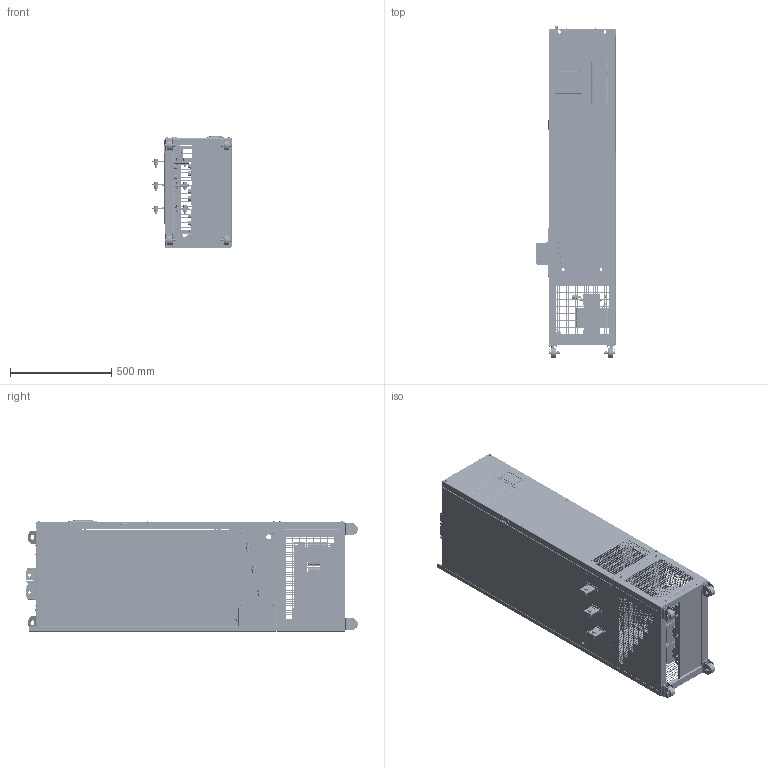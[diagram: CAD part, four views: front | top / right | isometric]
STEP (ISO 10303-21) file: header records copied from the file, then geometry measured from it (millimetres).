
FILE_DESCRIPTION((''),'2;1');
FILE_NAME('000_MVT284ZG-L-520_ASM','2021-12-14T',('h2718'),(''),'CREO PARAMETRIC BY PTC INC, 2015290','CREO PARAMETRIC BY PTC INC, 2015290','');
FILE_SCHEMA(('AP203_CONFIGURATION_CONTROLLED_3D_DESIGN_OF_MECHANICAL_PARTS_AND_ASSEMBLIES_MIM_LF { 1 0 10303 403 2 1 2 }'));
Products named in the file (122): 20310670-LJ_AF1_2; 20310670-LJ_AF0_ASM_2_ASM; 20310655-LJ_AF1_2_1; 20310655-LJ_AF1_2_2; 20310655-LJ_AF1_2_ASM; 20310655-LJ_AF0_ASM_2_ASM; 20310656-LJ_AF1_2_1; 20310656-LJ_AF1_2_2; 20310656-LJ_AF1_2_3; 20310656-LJ_AF1_2_4; 20310656-LJ_AF1_2_5; 20310656-LJ_AF1_2_ASM; 20310656-LJ_AF0_ASM_2_ASM; 20310657-LJ_AF1_3; 20310657-LJ_AF0_ASM_2_ASM; 20310668-LJ_2; HC-NZ-M12-ZC_2; 20310668-LJ_ASM_2_ASM; 20310665-LJ_AF0_2; 20310667-LJ_AF1_2; 20310667-LJ_AF0_ASM_2_ASM; 20310666-LJ_AF0_2; 20130165-ZP_AF0_ASM_2_ASM; 20310667-LJ_AF3_2; 20310667-LJ_AF2_ASM_2_ASM; 20310666-LJ_AF1_2; 20130165-ZP_AF1_ASM_2_ASM; 20110121-ZP_ASM_4_ASM; 20460173-LJ_2; 20460173-LJ_ASM_2_ASM; 20460174-LJ_2; 20460174-LJ_ASM_2_ASM; HC-TPR-5-10-SL_2; SIT2013AG60; 20460175-LJ_ASM_2_ASM; 20460176-LJ_2; 20460176-LJ_ASM_2_ASM; 20190055-ZP_ASM_4_ASM; 20350096-LJ_AF1_2; 20350096-LJ_AF0_ASM_2_ASM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
Assembly tree (248 placements, depth 7):
  000_MVT284ZG-L-520_ASM
    000_MVT284ZG_ASM_8_ASM
      20190055-ZP_ASM_4_ASM
        20110121-ZP_ASM_4_ASM
          20310670-LJ_AF0_ASM_2_ASM
            20310670-LJ_AF1_2
          20310655-LJ_AF0_ASM_2_ASM
            20310655-LJ_AF1_2_ASM
              20310655-LJ_AF1_2_1
              20310655-LJ_AF1_2_2
          20310656-LJ_AF0_ASM_2_ASM
            20310656-LJ_AF1_2_ASM
              20310656-LJ_AF1_2_1
              20310656-LJ_AF1_2_2
              20310656-LJ_AF1_2_3
              20310656-LJ_AF1_2_4
              20310656-LJ_AF1_2_5
          20310657-LJ_AF0_ASM_2_ASM
            20310657-LJ_AF1_3
          20310668-LJ_ASM_2_ASM
            20310668-LJ_2
            HC-NZ-M12-ZC_2  x2
          20310665-LJ_AF0_2
          20130165-ZP_AF0_ASM_2_ASM
            20310667-LJ_AF0_ASM_2_ASM
              20310667-LJ_AF1_2
            20310666-LJ_AF0_2
          20130165-ZP_AF1_ASM_2_ASM
            20310667-LJ_AF2_ASM_2_ASM
              20310667-LJ_AF3_2
            20310666-LJ_AF1_2
        20460173-LJ_ASM_2_ASM
          20460173-LJ_2
        20460174-LJ_ASM_2_ASM
          20460174-LJ_2
        20460175-LJ_ASM_2_ASM
          HC-TPR-5-10-SL_2
          SIT2013AG60
        20460176-LJ_ASM_2_ASM
          20460176-LJ_2
      20350092-ZP_ASM_2_ASM
        20350096-LJ_AF0_ASM_2_ASM
          20350096-LJ_AF1_2
        20350119-LJ_AF0_ASM_2_ASM
          20350119-LJ_AF1_2
        20350103-LJ_AF0_ASM_2_ASM
          20350103-LJ_AF1_2
        20350102-LJ_AF0_ASM_2_ASM
          20350102-LJ_AF1_2
        20350101-LJ_AF0_ASM_2_ASM
          20350101-LJ_AF1_2
      20310723-LJ_ASM_2_ASM  x3
        20310723-LJ_2
        HC-NZ-M12-ZC_2
      20350170-LJ_ASM_2_ASM  x3
        20350170-LJ_2
        HC-Z-M4-ZC-R0_2
      20210022-LJ_2  x3
      20230118-LJ_2
      21020123_2  x4
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Bounding box: 390.5 x 1635.5 x 547.38 mm (x, y, z)
Volume: 16872603.8 mm3; surface area: 9592063.2 mm2
Topology: 244 solids, 262 shells, 19619 faces, 53507 edges, 34642 vertices
Faces by surface type: plane 12795, cylinder 4379, cone 1419, bspline 543, torus 320, extrusion 94, sphere 59, revolution 10
Entity records: 730905 total; most frequent: CARTESIAN_POINT 165475, ORIENTED_EDGE 85760, DIRECTION 81463, PRESENTATION_STYLE_ASSIGNMENT 45934, STYLED_ITEM 43435, CURVE_STYLE 43320, EDGE_CURVE 42909, VECTOR 32071
